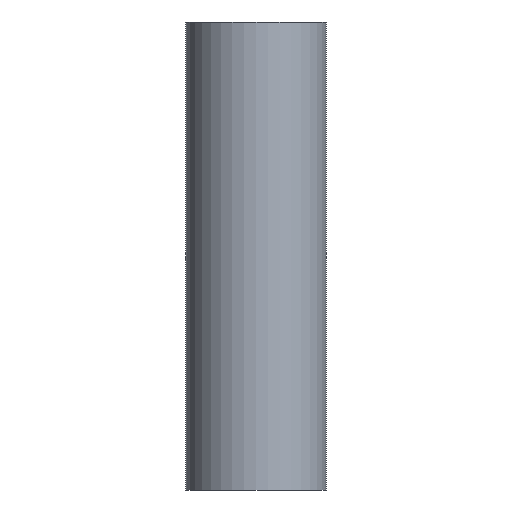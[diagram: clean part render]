
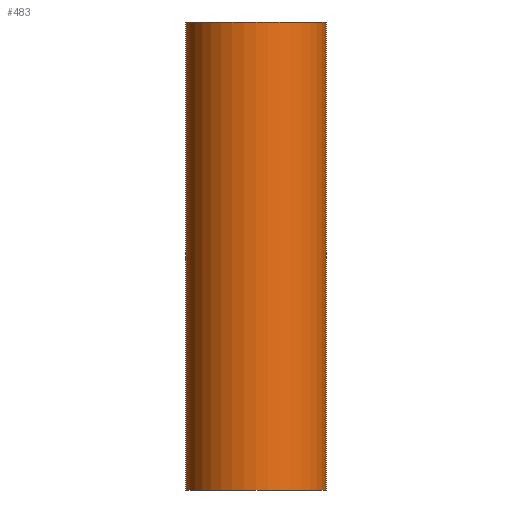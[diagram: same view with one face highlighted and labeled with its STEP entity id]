
A CAD part, front view. The second image highlights one B-rep face of the part: STEP entity #483.
In plain terms, the highlighted cylindrical face has radius 45 mm (diameter 90 mm), a partial arc.
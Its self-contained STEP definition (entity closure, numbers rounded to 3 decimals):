
#17 = EDGE_CURVE ( 'NONE', #47, #60, #39, .T. ) ;
#26 = CARTESIAN_POINT ( 'NONE',  ( -45., 0., 150. ) ) ;
#28 = DIRECTION ( 'NONE',  ( 0., 0., -1. ) ) ;
#29 = CARTESIAN_POINT ( 'NONE',  ( 45., 0., 300. ) ) ;
#31 = CARTESIAN_POINT ( 'NONE',  ( -45., 0., 300. ) ) ;
#35 = CARTESIAN_POINT ( 'NONE',  ( -45., 0., 300. ) ) ;
#39 = LINE ( 'NONE', #35, #388 ) ;
#43 = VERTEX_POINT ( 'NONE', #31 ) ;
#47 = VERTEX_POINT ( 'NONE', #26 ) ;
#49 = VERTEX_POINT ( 'NONE', #29 ) ;
#57 = VERTEX_POINT ( 'NONE', #360 ) ;
#58 = VERTEX_POINT ( 'NONE', #359 ) ;
#60 = VERTEX_POINT ( 'NONE', #357 ) ;
#91 = ORIENTED_EDGE ( 'NONE', *, *, #442, .F. ) ;
#93 = ORIENTED_EDGE ( 'NONE', *, *, #470, .T. ) ;
#97 = ORIENTED_EDGE ( 'NONE', *, *, #466, .F. ) ;
#98 = ORIENTED_EDGE ( 'NONE', *, *, #445, .T. ) ;
#100 = ORIENTED_EDGE ( 'NONE', *, *, #469, .F. ) ;
#105 = ORIENTED_EDGE ( 'NONE', *, *, #17, .T. ) ;
#140 = EDGE_LOOP ( 'NONE', ( #97, #91, #93, #105, #98, #100 ) ) ;
#195 = DIRECTION ( 'NONE',  ( -1., 0., 0. ) ) ;
#196 = CYLINDRICAL_SURFACE ( 'NONE', #390, 45. ) ;
#197 = CARTESIAN_POINT ( 'NONE',  ( 0., 0., 300. ) ) ;
#198 = FACE_OUTER_BOUND ( 'NONE', #140, .T. ) ;
#201 = DIRECTION ( 'NONE',  ( 0., 0., -1. ) ) ;
#259 = DIRECTION ( 'NONE',  ( 0., 0., -1. ) ) ;
#260 = CARTESIAN_POINT ( 'NONE',  ( -45., 0., 300. ) ) ;
#261 = DIRECTION ( 'NONE',  ( 0., 0., -1. ) ) ;
#262 = CARTESIAN_POINT ( 'NONE',  ( 45., 0., 300. ) ) ;
#264 = LINE ( 'NONE', #262, #377 ) ;
#268 = LINE ( 'NONE', #260, #413 ) ;
#273 = DIRECTION ( 'NONE',  ( 0., 0., -1. ) ) ;
#274 = CARTESIAN_POINT ( 'NONE',  ( 45., 0., 300. ) ) ;
#275 = LINE ( 'NONE', #274, #426 ) ;
#341 = DIRECTION ( 'NONE',  ( 1., 0., 0. ) ) ;
#342 = DIRECTION ( 'NONE',  ( 0., 0., 1. ) ) ;
#343 = CARTESIAN_POINT ( 'NONE',  ( 0., 0., 0. ) ) ;
#351 = DIRECTION ( 'NONE',  ( 1., 0., 0. ) ) ;
#352 = DIRECTION ( 'NONE',  ( 0., 0., 1. ) ) ;
#353 = CARTESIAN_POINT ( 'NONE',  ( 0., 0., 300. ) ) ;
#357 = CARTESIAN_POINT ( 'NONE',  ( -45., 0., 0. ) ) ;
#359 = CARTESIAN_POINT ( 'NONE',  ( 45., 0., 0. ) ) ;
#360 = CARTESIAN_POINT ( 'NONE',  ( 45., 0., 150. ) ) ;
#377 = VECTOR ( 'NONE', #261, 1000. ) ;
#388 = VECTOR ( 'NONE', #28, 1000. ) ;
#390 = AXIS2_PLACEMENT_3D ( 'NONE', #197, #201, #195 ) ;
#413 = VECTOR ( 'NONE', #259, 1000. ) ;
#426 = VECTOR ( 'NONE', #273, 1000. ) ;
#429 = AXIS2_PLACEMENT_3D ( 'NONE', #353, #352, #351 ) ;
#430 = CIRCLE ( 'NONE', #429, 45. ) ;
#432 = CIRCLE ( 'NONE', #438, 45. ) ;
#438 = AXIS2_PLACEMENT_3D ( 'NONE', #343, #342, #341 ) ;
#442 = EDGE_CURVE ( 'NONE', #43, #49, #430, .T. ) ;
#445 = EDGE_CURVE ( 'NONE', #60, #58, #432, .T. ) ;
#466 = EDGE_CURVE ( 'NONE', #49, #57, #275, .T. ) ;
#469 = EDGE_CURVE ( 'NONE', #57, #58, #264, .T. ) ;
#470 = EDGE_CURVE ( 'NONE', #43, #47, #268, .T. ) ;
#483 = ADVANCED_FACE ( 'NONE', ( #198 ), #196, .T. ) ;
